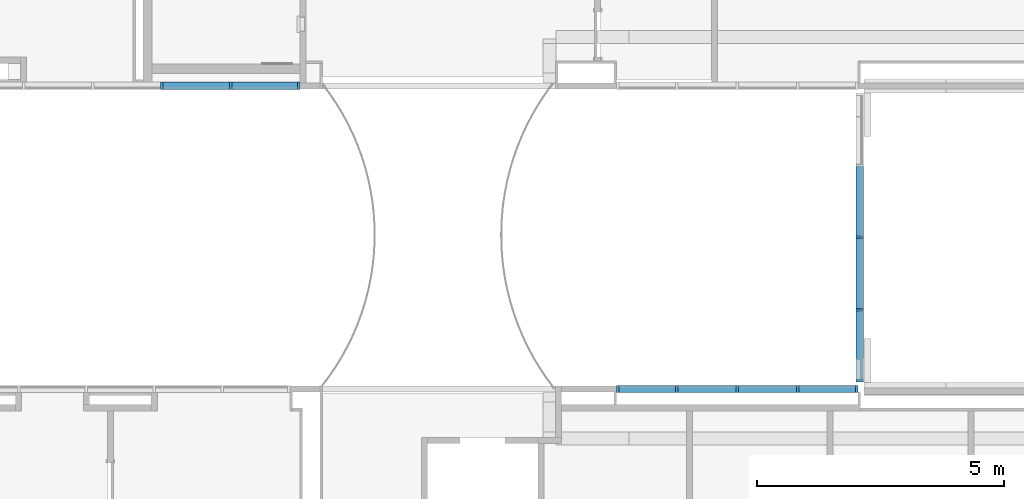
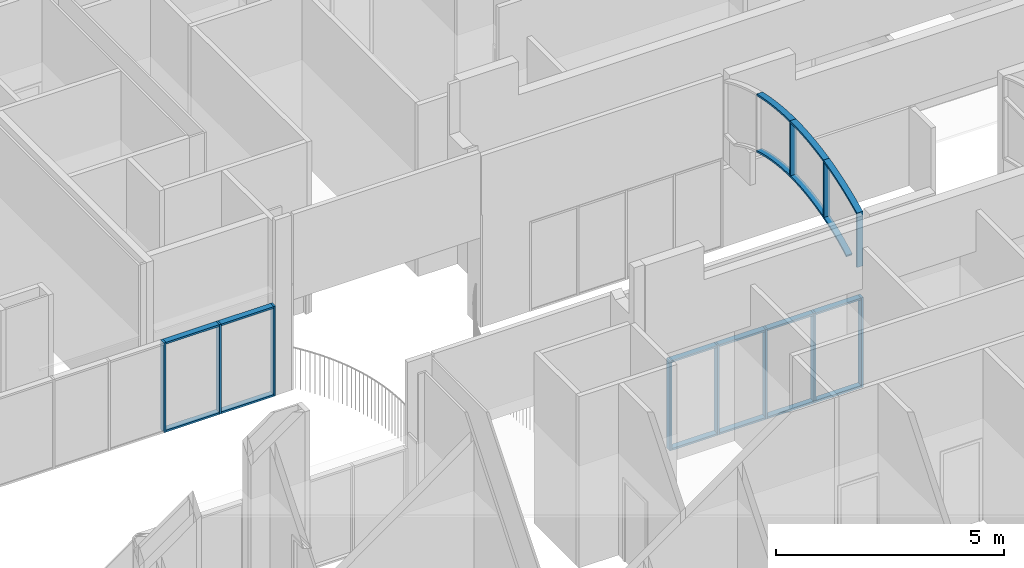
# One storey, part 2 of 47: 29 members, 3 elements without a shape of their own.
"""IFC2X3 building model written with IfcOpenShell, lengths in metres."""

from ifc_helpers import new_model, entity, si_unit, converted_unit, frame, frame_2d, origin, origin_2d_with_axis, place, context, project, spatial, polyline, circle_curve, parameter, trimmed, segment, composite_curve, rectangle, outline, extrude, source, transform, mapped, material, type_object, type_shapes, element, aggregate, save


model = new_model("IFC2X3")

# Units and contexts
model_context = context("Model", 3, precision=1e-09, world=origin())
plan_context = context("Plan", 3, precision=1e-09, world=origin())
ifc_project = project(units=[si_unit("LENGTHUNIT", "METRE"), si_unit("AREAUNIT", "SQUARE_METRE"), si_unit("VOLUMEUNIT", "CUBIC_METRE"), converted_unit("PLANEANGLEUNIT", "DEGREE", entity("IfcRatioMeasure", 0.01745329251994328), si_unit("PLANEANGLEUNIT", "RADIAN"), dimensions=[0, 0, 0, 0, 0, 0, 0]), si_unit("TIMEUNIT", "SECOND")], contexts=[model_context, plan_context])

# Site, building, storey
site_placement = place(None, origin())
site = spatial("IfcSite", under=ifc_project, at=site_placement, Name="Default", CompositionType="ELEMENT")
building_placement = place(site_placement, origin())
building = spatial("IfcBuilding", under=site, at=building_placement, CompositionType="ELEMENT")
storey_placement = place(building_placement, frame((0.0, 0.0, 4.570000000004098)))
storey = spatial("IfcBuildingStorey", under=building, at=storey_placement, Name="Second Floor", CompositionType="ELEMENT", Elevation=4.570000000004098)

# Curtain wall, members
curtain_wall_1_placement = place(storey_placement, origin())
curtain_wall_1 = element("IfcCurtainWall", 1, at=curtain_wall_1_placement, inside=storey, Name="Curtain Wall:Storefront", ObjectType="Curtain Wall:Storefront")
ifc_material = material(Name="Metal - Aluminium")
member_type_1 = type_object("IfcMemberType", Name="50 x 150mm", PredefinedType="MULLION")
shared_shape_1 = source(origin(), model_context, "Body", "SweptSolid", [
    extrude(rectangle(XDim=0.05, YDim=0.15, at=origin_2d_with_axis()), frame((-0.025, 0.0, -2.399999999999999), z_axis=(0.0, 0.0, 1.0), x_axis=(-1.0, 0.0, 0.0)), (0.0, 0.0, 1.0), 2.399999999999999),
])
type_shapes(member_type_1, [shared_shape_1])
member_1_placement = place(storey_placement, frame((-20.29000000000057, 34.77180159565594, 2.399999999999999)))
member_1 = element("IfcMember", 2, at=member_1_placement, type_object=member_type_1, material=ifc_material, Name="Rectangular Mullion:50 x 150mm:50 x 150mm", ObjectType="50 x 150mm", context=model_context, shape_type="MappedRepresentation", body=[
    mapped(shared_shape_1, transform((0.0, 0.0, 0.0), scale=1.0)),
])
member_type_2 = type_object("IfcMemberType", Name="50 x 150mm", PredefinedType="MULLION")
shared_shape_2 = source(origin(), model_context, "Body", "SweptSolid", [
    extrude(rectangle(XDim=0.05, YDim=0.15, at=origin_2d_with_axis()), frame((0.0, 0.0, -2.399999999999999), z_axis=(0.0, 0.0, 1.0), x_axis=(-1.0, 0.0, 0.0)), (0.0, 0.0, 1.0), 2.399999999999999),
])
type_shapes(member_type_2, [shared_shape_2])
member_2_placement = place(storey_placement, frame((-21.68987500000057, 34.77180159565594, 0.0), z_axis=(0.0, 0.0, -1.0), x_axis=(-1.0, 0.0, 0.0)))
member_2 = element("IfcMember", 3, at=member_2_placement, type_object=member_type_2, material=ifc_material, Name="Rectangular Mullion:50 x 150mm:50 x 150mm", ObjectType="50 x 150mm", context=model_context, shape_type="MappedRepresentation", body=[
    mapped(shared_shape_2, transform((0.0, 0.0, 0.0), scale=1.0)),
])
member_3_placement = place(storey_placement, frame((-23.08975000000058, 34.77180159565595, 0.0), z_axis=(0.0, 0.0, -1.0), x_axis=(-1.0, 0.0, 0.0)))
member_3 = element("IfcMember", 4, at=member_3_placement, type_object=member_type_2, material=ifc_material, Name="Rectangular Mullion:50 x 150mm:50 x 150mm", ObjectType="50 x 150mm", context=model_context, shape_type="MappedRepresentation", body=[
    mapped(shared_shape_2, transform((0.0, 0.0, 0.0), scale=1.0)),
])
member_type_3 = type_object("IfcMemberType", Name="50 x 150mm", PredefinedType="MULLION")
shared_shape_3 = source(origin(), model_context, "Body", "SweptSolid", [
    extrude(rectangle(XDim=0.05, YDim=0.15, at=origin_2d_with_axis()), frame((-0.025, 0.0, -1.324875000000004), z_axis=(0.0, 0.0, 1.0), x_axis=(-1.0, 0.0, 0.0)), (0.0, 0.0, 1.0), 1.324875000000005),
])
type_shapes(member_type_3, [shared_shape_3])
member_4_placement = place(storey_placement, frame((-21.66487500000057, 34.77180159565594, 2.399999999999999), z_axis=(-1.0, 0.0, 0.0), x_axis=(0.0, 0.0, 1.0)))
member_4 = element("IfcMember", 5, at=member_4_placement, type_object=member_type_3, material=ifc_material, Name="Rectangular Mullion:50 x 150mm:50 x 150mm", ObjectType="50 x 150mm", context=model_context, shape_type="MappedRepresentation", body=[
    mapped(shared_shape_3, transform((0.0, 0.0, 0.0), scale=1.0)),
])
member_type_4 = type_object("IfcMemberType", Name="50 x 150mm", PredefinedType="MULLION")
shared_shape_4 = source(origin(), model_context, "Body", "SweptSolid", [
    extrude(rectangle(XDim=0.05, YDim=0.15, at=origin_2d_with_axis()), frame((-0.025, 0.0, -1.324875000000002), z_axis=(0.0, 0.0, 1.0), x_axis=(-1.0, 0.0, 0.0)), (0.0, 0.0, 1.0), 1.324875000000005),
])
type_shapes(member_type_4, [shared_shape_4])
member_5_placement = place(storey_placement, frame((-20.34000000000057, 34.77180159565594, 0.0), z_axis=(1.0, 0.0, 0.0), x_axis=(0.0, 0.0, -1.0)))
member_5 = element("IfcMember", 6, at=member_5_placement, type_object=member_type_4, material=ifc_material, Name="Rectangular Mullion:50 x 150mm:50 x 150mm", ObjectType="50 x 150mm", context=model_context, shape_type="MappedRepresentation", body=[
    mapped(shared_shape_4, transform((0.0, 0.0, 0.0), scale=1.0)),
])
member_type_5 = type_object("IfcMemberType", Name="50 x 150mm", PredefinedType="MULLION")
shared_shape_5 = source(origin(), model_context, "Body", "SweptSolid", [
    extrude(rectangle(XDim=0.05, YDim=0.15, at=origin_2d_with_axis()), frame((-0.025, 0.0, -1.349875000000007), z_axis=(0.0, 0.0, 1.0), x_axis=(-1.0, 0.0, 0.0)), (0.0, 0.0, 1.0), 1.349875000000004),
])
type_shapes(member_type_5, [shared_shape_5])
member_6_placement = place(storey_placement, frame((-23.06475000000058, 34.77180159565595, 2.399999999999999), z_axis=(-1.0, 0.0, 0.0), x_axis=(0.0, 0.0, 1.0)))
member_6 = element("IfcMember", 7, at=member_6_placement, type_object=member_type_5, material=ifc_material, Name="Rectangular Mullion:50 x 150mm:50 x 150mm", ObjectType="50 x 150mm", context=model_context, shape_type="MappedRepresentation", body=[
    mapped(shared_shape_5, transform((0.0, 0.0, 0.0), scale=1.0)),
])
member_type_6 = type_object("IfcMemberType", Name="50 x 150mm", PredefinedType="MULLION")
shared_shape_6 = source(origin(), model_context, "Body", "SweptSolid", [
    extrude(rectangle(XDim=0.05, YDim=0.15, at=origin_2d_with_axis()), frame((-0.025, 0.0, -1.349875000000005), z_axis=(0.0, 0.0, 1.0), x_axis=(-1.0, 0.0, 0.0)), (0.0, 0.0, 1.0), 1.349875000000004),
])
type_shapes(member_type_6, [shared_shape_6])
member_7_placement = place(storey_placement, frame((-21.71487500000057, 34.77180159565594, 0.0), z_axis=(1.0, 0.0, 0.0), x_axis=(0.0, 0.0, -1.0)))
member_7 = element("IfcMember", 8, at=member_7_placement, type_object=member_type_6, material=ifc_material, Name="Rectangular Mullion:50 x 150mm:50 x 150mm", ObjectType="50 x 150mm", context=model_context, shape_type="MappedRepresentation", body=[
    mapped(shared_shape_6, transform((0.0, 0.0, 0.0), scale=1.0)),
])
aggregate(curtain_wall_1, [member_5, member_1, member_4, member_6, member_7, member_2, member_3])

curtain_wall_2_placement = place(storey_placement, origin())
curtain_wall_2 = element("IfcCurtainWall", 9, at=curtain_wall_2_placement, inside=storey, Name="Curtain Wall:Storefront", ObjectType="Curtain Wall:Storefront")
member_type_7 = type_object("IfcMemberType", Name="50 x 150mm", PredefinedType="MULLION")
shared_shape_7 = source(origin(), model_context, "Body", "SweptSolid", [
    extrude(outline(polyline([(-0.721887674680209, -0.025), (0.7372659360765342, -0.025), (0.7065094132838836, 0.025), (-0.721887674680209, 0.025), (-0.721887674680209, -0.025)])), frame((-0.025, -0.07499999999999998, -0.721887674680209), z_axis=(0.0, 1.0, 0.0), x_axis=(0.0, 0.0, -1.0)), (0.0, 0.0, 1.0), 0.15),
])
type_shapes(member_type_7, [shared_shape_7])
member_8_placement = place(storey_placement, frame((-8.945999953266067, 28.76999999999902, 3.069999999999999), z_axis=(0.0, 0.0, -1.0), x_axis=(0.0, -1.0, 0.0)))
member_8 = element("IfcMember", 10, at=member_8_placement, type_object=member_type_7, material=ifc_material, Name="Rectangular Mullion:50 x 150mm:50 x 150mm", ObjectType="50 x 150mm", context=model_context, shape_type="MappedRepresentation", body=[
    mapped(shared_shape_7, transform((0.0, 0.0, 0.0), scale=1.0)),
])
member_type_8 = type_object("IfcMemberType", Name="50 x 150mm", PredefinedType="MULLION")
shared_shape_8 = source(origin(), model_context, "Body", "SweptSolid", [
    extrude(outline(composite_curve([segment(polyline([(-0.6042689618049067, -0.02322478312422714), (0.8057359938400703, -0.02322478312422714)]), True, "CONTINUOUS"), segment(trimmed(circle_curve(frame_2d((-5.619246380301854, -0.008175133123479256), x_axis=(0.9744238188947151, -0.2247180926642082)), 6.424999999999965), [parameter(12.85209420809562)], [parameter(13.07434994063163)], True, "PARAMETER"), True, "CONTINUOUS"), segment(trimmed(circle_curve(frame_2d((-5.619246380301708, -0.0081751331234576), x_axis=(0.9999988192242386, 0.001536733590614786)), 6.424999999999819), [parameter(0.0)], [parameter(0.2236274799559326)], True, "PARAMETER"), True, "CONTINUOUS"), segment(polyline([(0.8056585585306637, 0.02677521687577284), (-0.6043681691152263, 0.02677521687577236)]), True, "CONTINUOUS"), segment(trimmed(circle_curve(frame_2d((-5.619246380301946, -0.008175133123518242), x_axis=(0.9548558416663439, 0.2970695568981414)), 5.015000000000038), [parameter(342.8331478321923)], [parameter(343.1176281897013)], True, "PARAMETER"), False, "CONTINUOUS"), segment(polyline([(-0.6042564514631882, 0.001875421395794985), (-0.604247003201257, -0.01067466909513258)]), True, "CONTINUOUS"), segment(polyline([(-0.604247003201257, -0.01067466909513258), (-0.6042689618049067, -0.02322478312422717)]), True, "CONTINUOUS")], self_intersect=False)), frame((0.001775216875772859, -0.07500000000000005, -0.6542563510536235), z_axis=(0.0, 1.0, 0.0), x_axis=(0.0, 0.0, -1.0)), (0.0, 0.0, 1.0), 0.15),
])
type_shapes(member_type_8, [shared_shape_8])
member_9_placement = place(storey_placement, frame((-8.945999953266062, 31.699999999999, 3.714962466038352), z_axis=(0.0, 0.0, -1.0), x_axis=(0.0, -1.0, 0.0)))
member_9 = element("IfcMember", 11, at=member_9_placement, type_object=member_type_8, material=ifc_material, Name="Rectangular Mullion:50 x 150mm:50 x 150mm", ObjectType="50 x 150mm", context=model_context, shape_type="MappedRepresentation", body=[
    mapped(shared_shape_8, transform((0.0, 0.0, 0.0), scale=1.0)),
])
member_type_9 = type_object("IfcMemberType", Name="50 x 150mm", PredefinedType="MULLION")
shared_shape_9 = source(origin(), model_context, "Body", "SweptSolid", [
    extrude(outline(composite_curve([segment(polyline([(-0.736550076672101, -0.02435906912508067), (0.7240299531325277, -0.02435906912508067)]), True, "CONTINUOUS"), segment(trimmed(circle_curve(frame_2d((-5.528175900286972, 1.455690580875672), x_axis=(0.8925376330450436, -0.4509729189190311)), 6.425000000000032), [parameter(13.48797753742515)], [parameter(13.81982101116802)], True, "PARAMETER"), True, "CONTINUOUS"), segment(polyline([(0.732497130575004, 0.01187681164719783), (0.7340800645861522, 0.01875800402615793)]), True, "CONTINUOUS"), segment(polyline([(0.7340800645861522, 0.01875800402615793), (0.7356554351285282, 0.02564093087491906)]), True, "CONTINUOUS"), segment(polyline([(0.7356554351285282, 0.02564093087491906), (-0.7213908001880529, 0.02564093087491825)]), True, "CONTINUOUS"), segment(trimmed(circle_curve(frame_2d((-5.528175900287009, 1.455690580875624), x_axis=(0.9999979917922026, 0.00200409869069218)), 5.015000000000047), [parameter(342.8438491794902)], [parameter(343.3170915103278)], True, "PARAMETER"), False, "CONTINUOUS"), segment(polyline([(-0.7333663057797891, -0.01401209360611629), (-0.7349554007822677, -0.01918644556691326)]), True, "CONTINUOUS"), segment(polyline([(-0.7349554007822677, -0.01918644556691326), (-0.736550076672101, -0.02435906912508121)]), True, "CONTINUOUS")], self_intersect=False)), frame((0.0006409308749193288, -0.07499999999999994, -0.7811710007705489), z_axis=(0.0, 1.0, 0.0), x_axis=(0.0, 0.0, -1.0)), (0.0, 0.0, 1.0), 0.15),
])
type_shapes(member_type_9, [shared_shape_9])
member_10_placement = place(storey_placement, frame((-8.945999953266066, 30.23499999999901, 3.496977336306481), z_axis=(0.0, 0.0, -1.0), x_axis=(0.0, -1.0, 0.0)))
member_10 = element("IfcMember", 12, at=member_10_placement, type_object=member_type_9, material=ifc_material, Name="Rectangular Mullion:50 x 150mm:50 x 150mm", ObjectType="50 x 150mm", context=model_context, shape_type="MappedRepresentation", body=[
    mapped(shared_shape_9, transform((0.0, 0.0, 0.0), scale=1.0)),
])
member_type_10 = type_object("IfcMemberType", Name="50 x 150mm", PredefinedType="MULLION")
shared_shape_10 = source(origin(), model_context, "Body", "SweptSolid", [
    extrude(outline(composite_curve([segment(polyline([(-0.1165367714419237, -0.7628718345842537), (-0.06653677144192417, -0.7628718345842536)]), True, "CONTINUOUS"), segment(trimmed(circle_curve(frame_2d((6.358463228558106, -0.7628718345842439), x_axis=(-0.9710517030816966, 0.2388693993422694)), 6.425000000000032), [parameter(0.2746813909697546)], [parameter(13.81982101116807)], True, "PARAMETER"), False, "CONTINUOUS"), segment(polyline([(0.1121700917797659, 0.7419361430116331), (0.07090345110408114, 0.7838075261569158)]), True, "CONTINUOUS"), segment(trimmed(circle_curve(frame_2d((6.358463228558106, -0.7628718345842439), x_axis=(-0.9710517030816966, 0.2388693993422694)), 6.475000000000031), [parameter(3.562221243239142e-13)], [parameter(13.81982101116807)], True, "PARAMETER"), True, "CONTINUOUS")], self_intersect=False)), frame((-0.1183767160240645, -0.07499999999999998, -0.77805429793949), z_axis=(0.0, 1.0, 0.0), x_axis=(-0.9710517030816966, 0.0, 0.238869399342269)), (0.0, 0.0, 1.0), 0.15),
])
type_shapes(member_type_10, [shared_shape_10])
member_11_placement = place(storey_placement, frame((-8.945999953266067, 28.76999999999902, 4.529153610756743), z_axis=(0.0, -0.8925376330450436, -0.4509729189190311), x_axis=(0.0, -0.4509729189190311, 0.8925376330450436)))
member_11 = element("IfcMember", 13, at=member_11_placement, type_object=member_type_10, material=ifc_material, Name="Rectangular Mullion:50 x 150mm:50 x 150mm", ObjectType="50 x 150mm", context=model_context, shape_type="MappedRepresentation", body=[
    mapped(shared_shape_10, transform((0.0, 0.0, 0.0), scale=1.0)),
])
member_type_11 = type_object("IfcMemberType", Name="50 x 150mm", PredefinedType="MULLION")
shared_shape_11 = source(origin(), model_context, "Body", "SweptSolid", [
    extrude(outline(composite_curve([segment(polyline([(-0.1086602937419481, -0.7298012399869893), (-0.05866029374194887, -0.7298012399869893)]), True, "CONTINUOUS"), segment(trimmed(circle_curve(frame_2d((6.366339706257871, -0.7298012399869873), x_axis=(-0.9740588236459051, 0.226294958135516)), 6.42499999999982), [parameter(3.562221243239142e-13)], [parameter(13.07903804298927)], True, "PARAMETER"), False, "CONTINUOUS"), segment(polyline([(0.1080117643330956, 0.7241438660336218), (0.05930882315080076, 0.7354586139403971)]), True, "CONTINUOUS"), segment(trimmed(circle_curve(frame_2d((6.366339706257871, -0.7298012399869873), x_axis=(-0.9740588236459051, 0.226294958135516)), 6.474999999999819), [parameter(3.562221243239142e-13)], [parameter(13.07903804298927)], True, "PARAMETER"), True, "CONTINUOUS")], self_intersect=False)), frame((-0.1086602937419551, -0.07499999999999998, -0.7298012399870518), z_axis=(0.0, 1.0, 0.0), x_axis=(-0.9740588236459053, 0.0, 0.2262949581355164)), (0.0, 0.0, 1.0), 0.1499999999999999),
])
type_shapes(member_type_11, [shared_shape_11])
placement = place(building_placement, frame((0.0, 0.0, 9.25000000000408)))
member_12_placement = place(placement, frame((-8.945999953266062, 31.699999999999, 0.5449647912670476), z_axis=(0.0, -0.9999988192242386, 0.001536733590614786), x_axis=(0.0, 0.001536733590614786, 0.9999988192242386)))
member_12 = element("IfcMember", 14, at=member_12_placement, type_object=member_type_11, material=ifc_material, Name="Rectangular Mullion:50 x 150mm:50 x 150mm", ObjectType="50 x 150mm", context=model_context, shape_type="MappedRepresentation", body=[
    mapped(shared_shape_11, transform((0.0, 0.0, 0.0), scale=1.0)),
])
member_type_12 = type_object("IfcMemberType", Name="50 x 150mm", PredefinedType="MULLION")
shared_shape_12 = source(origin(), model_context, "Body", "SweptSolid", [
    extrude(outline(composite_curve([segment(polyline([(-0.1086005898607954, -0.7295442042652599), (-0.05860058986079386, -0.7295442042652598)]), True, "CONTINUOUS"), segment(trimmed(circle_curve(frame_2d((6.366399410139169, -0.7295442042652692), x_axis=(-0.9740773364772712, 0.2262152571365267)), 6.424999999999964), [parameter(3.562221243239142e-13)], [parameter(13.07434994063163)], True, "PARAMETER"), False, "CONTINUOUS"), segment(polyline([(0.1079525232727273, 0.7238888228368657), (0.05924865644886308, 0.7351995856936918)]), True, "CONTINUOUS"), segment(trimmed(circle_curve(frame_2d((6.366399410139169, -0.7295442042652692), x_axis=(-0.9740773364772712, 0.2262152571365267)), 6.474999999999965), [parameter(3.562221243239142e-13)], [parameter(13.07434994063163)], True, "PARAMETER"), True, "CONTINUOUS")], self_intersect=False)), frame((-0.1086005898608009, -0.07499999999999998, -0.729544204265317), z_axis=(0.0, 1.0, 0.0), x_axis=(-0.9740773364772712, 0.0, 0.2262152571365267)), (0.0, 0.0, 1.0), 0.15),
])
type_shapes(member_type_12, [shared_shape_12])
member_13_placement = place(placement, frame((-8.945999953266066, 30.23499999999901, 0.3793666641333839), z_axis=(0.0, -0.9744238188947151, -0.2247180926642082), x_axis=(0.0, -0.2247180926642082, 0.9744238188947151)))
member_13 = element("IfcMember", 15, at=member_13_placement, type_object=member_type_12, material=ifc_material, Name="Rectangular Mullion:50 x 150mm:50 x 150mm", ObjectType="50 x 150mm", context=model_context, shape_type="MappedRepresentation", body=[
    mapped(shared_shape_12, transform((0.0, 0.0, 0.0), scale=1.0)),
])
member_type_13 = type_object("IfcMemberType", Name="50 x 150mm", PredefinedType="MULLION")
shared_shape_13 = source(origin(), model_context, "Body", "SweptSolid", [
    extrude(outline(composite_curve([segment(polyline([(0.08615404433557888, -0.7364125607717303), (0.1361540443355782, -0.7364125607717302)]), True, "CONTINUOUS"), segment(trimmed(circle_curve(frame_2d((-4.878845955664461, -0.736412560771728), x_axis=(0.9554492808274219, 0.2951553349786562)), 5.015000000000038), [parameter(342.8331478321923)], [parameter(359.9999999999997)], True, "PARAMETER"), True, "CONTINUOUS"), segment(polyline([(-0.0872678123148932, 0.7437914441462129), (-0.1350402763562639, 0.7290336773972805)]), True, "CONTINUOUS"), segment(trimmed(circle_curve(frame_2d((-4.878845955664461, -0.736412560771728), x_axis=(0.9554492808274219, 0.2951553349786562)), 4.965000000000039), [parameter(342.8331478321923)], [parameter(359.9999999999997)], True, "PARAMETER"), False, "CONTINUOUS")], self_intersect=False)), frame((0.08615404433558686, -0.07499999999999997, -0.7364125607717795), z_axis=(0.0, 1.0, 0.0), x_axis=(-0.9554492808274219, 0.0, -0.2951553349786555)), (0.0, 0.0, 1.0), 0.15),
])
type_shapes(member_type_13, [shared_shape_13])
member_14_placement = place(storey_placement, frame((-8.94599995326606, 33.16499999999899, 3.490831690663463), z_axis=(0.0, 0.9548558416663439, -0.2970695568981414), x_axis=(0.0, -0.2970695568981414, -0.9548558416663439)))
member_14 = element("IfcMember", 16, at=member_14_placement, type_object=member_type_13, material=ifc_material, Name="Rectangular Mullion:50 x 150mm:50 x 150mm", ObjectType="50 x 150mm", context=model_context, shape_type="MappedRepresentation", body=[
    mapped(shared_shape_13, transform((0.0, 0.0, 0.0), scale=1.0)),
])
member_type_14 = type_object("IfcMemberType", Name="50 x 150mm", PredefinedType="MULLION")
shared_shape_14 = source(origin(), model_context, "Body", "SweptSolid", [
    extrude(outline(composite_curve([segment(polyline([(0.08601654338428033, -0.7359673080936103), (0.1360165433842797, -0.7359673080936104)]), True, "CONTINUOUS"), segment(trimmed(circle_curve(frame_2d((-4.878983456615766, -0.7359673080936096), x_axis=(0.955504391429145, 0.2949768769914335)), 5.015000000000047), [parameter(342.8438491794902)], [parameter(359.9999999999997)], True, "PARAMETER"), True, "CONTINUOUS"), segment(polyline([(-0.08712893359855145, 0.7433417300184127), (-0.1349041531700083, 0.7285928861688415)]), True, "CONTINUOUS"), segment(trimmed(circle_curve(frame_2d((-4.878983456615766, -0.7359673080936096), x_axis=(0.955504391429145, 0.2949768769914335)), 4.965000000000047), [parameter(342.8438491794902)], [parameter(359.9999999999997)], True, "PARAMETER"), False, "CONTINUOUS")], self_intersect=False)), frame((0.08601654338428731, -0.07499999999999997, -0.735967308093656), z_axis=(0.0, 1.0, 0.0), x_axis=(-0.9555043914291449, 0.0, -0.2949768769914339)), (0.0, 0.0, 1.0), 0.1499999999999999),
])
type_shapes(member_type_14, [shared_shape_14])
member_15_placement = place(storey_placement, frame((-8.945999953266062, 31.699999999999, 3.714962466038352), z_axis=(0.0, 0.9999979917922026, -0.00200409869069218), x_axis=(0.0, -0.00200409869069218, -0.9999979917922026)))
member_15 = element("IfcMember", 17, at=member_15_placement, type_object=member_type_14, material=ifc_material, Name="Rectangular Mullion:50 x 150mm:50 x 150mm", ObjectType="50 x 150mm", context=model_context, shape_type="MappedRepresentation", body=[
    mapped(shared_shape_14, transform((0.0, 0.0, 0.0), scale=1.0)),
])
member_type_15 = type_object("IfcMemberType", Name="50 x 150mm", PredefinedType="MULLION")
shared_shape_15 = source(origin(), model_context, "Body", "SweptSolid", [
    extrude(outline(composite_curve([segment(polyline([(-0.1054287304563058, -0.5335868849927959), (-0.05373918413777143, -0.5335868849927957)]), True, "CONTINUOUS"), segment(trimmed(circle_curve(frame_2d((-4.906478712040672, 0.7317763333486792), x_axis=(0.9992109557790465, -0.03971732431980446)), 5.015000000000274), [parameter(347.6616481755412)], [parameter(359.9999999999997)], True, "PARAMETER"), True, "CONTINUOUS"), segment(polyline([(0.1045642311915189, 0.5325939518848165), (0.05460368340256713, 0.534579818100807)]), True, "CONTINUOUS"), segment(trimmed(circle_curve(frame_2d((-4.906478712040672, 0.7317763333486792), x_axis=(0.9992109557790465, -0.03971732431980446)), 4.965000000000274), [parameter(347.511143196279)], [parameter(359.9999999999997)], True, "PARAMETER"), False, "CONTINUOUS")], self_intersect=False)), frame((0.03332851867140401, -0.07499999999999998, -0.5363267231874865), z_axis=(0.0, 1.0, 0.0), x_axis=(-0.9992109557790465, 0.0, 0.03971732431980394)), (0.0, 0.0, 1.0), 0.1499999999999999),
])
type_shapes(member_type_15, [shared_shape_15])
member_16_placement = place(storey_placement, frame((-8.945999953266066, 30.23499999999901, 3.496977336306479), z_axis=(0.0, 0.9560936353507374, 0.2930613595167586), x_axis=(0.0, 0.2930613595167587, -0.9560936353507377)))
member_16 = element("IfcMember", 18, at=member_16_placement, type_object=member_type_15, material=ifc_material, Name="Rectangular Mullion:50 x 150mm:50 x 150mm", ObjectType="50 x 150mm", context=model_context, shape_type="MappedRepresentation", body=[
    mapped(shared_shape_15, transform((0.0, 0.0, 0.0), scale=1.0)),
])
aggregate(curtain_wall_2, [member_8, member_9, member_10, member_11, member_12, member_13, member_14, member_15, member_16])

curtain_wall_3_placement = place(storey_placement, origin())
curtain_wall_3 = element("IfcCurtainWall", 19, at=curtain_wall_3_placement, inside=storey, Name="Curtain Wall:Storefront", ObjectType="Curtain Wall:Storefront")
member_type_16 = type_object("IfcMemberType", Name="50 x 150mm", PredefinedType="MULLION")
shared_shape_16 = source(origin(), model_context, "Body", "SweptSolid", [
    extrude(rectangle(XDim=0.05, YDim=0.15, at=origin_2d_with_axis()), frame((-0.025, 0.0, -2.399999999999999), z_axis=(0.0, 0.0, 1.0), x_axis=(-1.0, 0.0, 0.0)), (0.0, 0.0, 1.0), 2.399999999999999),
])
type_shapes(member_type_16, [shared_shape_16])
member_17_placement = place(storey_placement, frame((-13.8725000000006, 28.62819840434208, 0.0), z_axis=(0.0, 0.0, -1.0), x_axis=(-1.0, 0.0, 0.0)))
member_17 = element("IfcMember", 20, at=member_17_placement, type_object=member_type_16, material=ifc_material, Name="Rectangular Mullion:50 x 150mm:50 x 150mm", ObjectType="50 x 150mm", context=model_context, shape_type="MappedRepresentation", body=[
    mapped(shared_shape_16, transform((0.0, 0.0, 0.0), scale=1.0)),
])
member_type_17 = type_object("IfcMemberType", Name="50 x 150mm", PredefinedType="MULLION")
shared_shape_17 = source(origin(), model_context, "Body", "SweptSolid", [
    extrude(rectangle(XDim=0.05, YDim=0.15, at=origin_2d_with_axis()), frame((-0.025, 0.0, -2.399999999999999), z_axis=(0.0, 0.0, 1.0), x_axis=(-1.0, 0.0, 0.0)), (0.0, 0.0, 1.0), 2.399999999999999),
])
type_shapes(member_type_17, [shared_shape_17])
member_18_placement = place(storey_placement, frame((-8.981726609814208, 28.6281984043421, 2.399999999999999)))
member_18 = element("IfcMember", 21, at=member_18_placement, type_object=member_type_17, material=ifc_material, Name="Rectangular Mullion:50 x 150mm:50 x 150mm", ObjectType="50 x 150mm", context=model_context, shape_type="MappedRepresentation", body=[
    mapped(shared_shape_17, transform((0.0, 0.0, 0.0), scale=1.0)),
])
member_type_18 = type_object("IfcMemberType", Name="50 x 150mm", PredefinedType="MULLION")
shared_shape_18 = source(origin(), model_context, "Body", "SweptSolid", [
    extrude(rectangle(XDim=0.05, YDim=0.15, at=origin_2d_with_axis()), frame((0.0, 0.0, -2.399999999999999), z_axis=(0.0, 0.0, 1.0), x_axis=(-1.0, 0.0, 0.0)), (0.0, 0.0, 1.0), 2.399999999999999),
])
type_shapes(member_type_18, [shared_shape_18])
member_19_placement = place(storey_placement, frame((-10.20441995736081, 28.6281984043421, 0.0), z_axis=(0.0, 0.0, -1.0), x_axis=(-1.0, 0.0, 0.0)))
member_19 = element("IfcMember", 22, at=member_19_placement, type_object=member_type_18, material=ifc_material, Name="Rectangular Mullion:50 x 150mm:50 x 150mm", ObjectType="50 x 150mm", context=model_context, shape_type="MappedRepresentation", body=[
    mapped(shared_shape_18, transform((0.0, 0.0, 0.0), scale=1.0)),
])
member_20_placement = place(storey_placement, frame((-11.4271133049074, 28.62819840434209, 0.0), z_axis=(0.0, 0.0, -1.0), x_axis=(-1.0, 0.0, 0.0)))
member_20 = element("IfcMember", 23, at=member_20_placement, type_object=member_type_18, material=ifc_material, Name="Rectangular Mullion:50 x 150mm:50 x 150mm", ObjectType="50 x 150mm", context=model_context, shape_type="MappedRepresentation", body=[
    mapped(shared_shape_18, transform((0.0, 0.0, 0.0), scale=1.0)),
])
member_21_placement = place(storey_placement, frame((-12.649806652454, 28.62819840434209, 0.0), z_axis=(0.0, 0.0, -1.0), x_axis=(-1.0, 0.0, 0.0)))
member_21 = element("IfcMember", 24, at=member_21_placement, type_object=member_type_18, material=ifc_material, Name="Rectangular Mullion:50 x 150mm:50 x 150mm", ObjectType="50 x 150mm", context=model_context, shape_type="MappedRepresentation", body=[
    mapped(shared_shape_18, transform((0.0, 0.0, 0.0), scale=1.0)),
])
member_type_19 = type_object("IfcMemberType", Name="50 x 150mm", PredefinedType="MULLION")
shared_shape_19 = source(origin(), model_context, "Body", "SweptSolid", [
    extrude(rectangle(XDim=0.05, YDim=0.15, at=origin_2d_with_axis()), frame((-0.025, 0.0, -1.147693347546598), z_axis=(0.0, 0.0, 1.0), x_axis=(-1.0, 0.0, 0.0)), (0.0, 0.0, 1.0), 1.147693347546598),
])
type_shapes(member_type_19, [shared_shape_19])
member_22_placement = place(storey_placement, frame((-13.8225000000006, 28.62819840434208, 2.399999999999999), z_axis=(-1.0, 0.0, 0.0), x_axis=(0.0, 0.0, 1.0)))
member_22 = element("IfcMember", 25, at=member_22_placement, type_object=member_type_19, material=ifc_material, Name="Rectangular Mullion:50 x 150mm:50 x 150mm", ObjectType="50 x 150mm", context=model_context, shape_type="MappedRepresentation", body=[
    mapped(shared_shape_19, transform((0.0, 0.0, 0.0), scale=1.0)),
])
member_23_placement = place(storey_placement, frame((-10.17941995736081, 28.6281984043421, 2.399999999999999), z_axis=(-1.0, 0.0, 0.0), x_axis=(0.0, 0.0, 1.0)))
member_23 = element("IfcMember", 26, at=member_23_placement, type_object=member_type_19, material=ifc_material, Name="Rectangular Mullion:50 x 150mm:50 x 150mm", ObjectType="50 x 150mm", context=model_context, shape_type="MappedRepresentation", body=[
    mapped(shared_shape_19, transform((0.0, 0.0, 0.0), scale=1.0)),
])
member_type_20 = type_object("IfcMemberType", Name="50 x 150mm", PredefinedType="MULLION")
shared_shape_20 = source(origin(), model_context, "Body", "SweptSolid", [
    extrude(rectangle(XDim=0.05, YDim=0.15, at=origin_2d_with_axis()), frame((-0.025, 0.0, -1.172693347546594), z_axis=(0.0, 0.0, 1.0), x_axis=(-1.0, 0.0, 0.0)), (0.0, 0.0, 1.0), 1.172693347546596),
])
type_shapes(member_type_20, [shared_shape_20])
member_24_placement = place(storey_placement, frame((-11.4021133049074, 28.62819840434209, 2.399999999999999), z_axis=(-1.0, 0.0, 0.0), x_axis=(0.0, 0.0, 1.0)))
member_24 = element("IfcMember", 27, at=member_24_placement, type_object=member_type_20, material=ifc_material, Name="Rectangular Mullion:50 x 150mm:50 x 150mm", ObjectType="50 x 150mm", context=model_context, shape_type="MappedRepresentation", body=[
    mapped(shared_shape_20, transform((0.0, 0.0, 0.0), scale=1.0)),
])
member_25_placement = place(storey_placement, frame((-12.624806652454, 28.62819840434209, 2.399999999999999), z_axis=(-1.0, 0.0, 0.0), x_axis=(0.0, 0.0, 1.0)))
member_25 = element("IfcMember", 28, at=member_25_placement, type_object=member_type_20, material=ifc_material, Name="Rectangular Mullion:50 x 150mm:50 x 150mm", ObjectType="50 x 150mm", context=model_context, shape_type="MappedRepresentation", body=[
    mapped(shared_shape_20, transform((0.0, 0.0, 0.0), scale=1.0)),
])
member_type_21 = type_object("IfcMemberType", Name="50 x 150mm", PredefinedType="MULLION")
shared_shape_21 = source(origin(), model_context, "Body", "SweptSolid", [
    extrude(rectangle(XDim=0.05, YDim=0.15, at=origin_2d_with_axis()), frame((-0.025, 0.0, -1.147693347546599), z_axis=(0.0, 0.0, 1.0), x_axis=(-1.0, 0.0, 0.0)), (0.0, 0.0, 1.0), 1.147693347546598),
])
type_shapes(member_type_21, [shared_shape_21])
member_26_placement = place(storey_placement, frame((-9.031726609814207, 28.6281984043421, 0.0), z_axis=(1.0, 0.0, 0.0), x_axis=(0.0, 0.0, -1.0)))
member_26 = element("IfcMember", 29, at=member_26_placement, type_object=member_type_21, material=ifc_material, Name="Rectangular Mullion:50 x 150mm:50 x 150mm", ObjectType="50 x 150mm", context=model_context, shape_type="MappedRepresentation", body=[
    mapped(shared_shape_21, transform((0.0, 0.0, 0.0), scale=1.0)),
])
member_27_placement = place(storey_placement, frame((-12.674806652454, 28.62819840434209, 0.0), z_axis=(1.0, 0.0, 0.0), x_axis=(0.0, 0.0, -1.0)))
member_27 = element("IfcMember", 30, at=member_27_placement, type_object=member_type_21, material=ifc_material, Name="Rectangular Mullion:50 x 150mm:50 x 150mm", ObjectType="50 x 150mm", context=model_context, shape_type="MappedRepresentation", body=[
    mapped(shared_shape_21, transform((0.0, 0.0, 0.0), scale=1.0)),
])
member_type_22 = type_object("IfcMemberType", Name="50 x 150mm", PredefinedType="MULLION")
shared_shape_22 = source(origin(), model_context, "Body", "SweptSolid", [
    extrude(rectangle(XDim=0.05, YDim=0.15, at=origin_2d_with_axis()), frame((-0.025, 0.0, -1.172693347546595), z_axis=(0.0, 0.0, 1.0), x_axis=(-1.0, 0.0, 0.0)), (0.0, 0.0, 1.0), 1.172693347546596),
])
type_shapes(member_type_22, [shared_shape_22])
member_28_placement = place(storey_placement, frame((-10.22941995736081, 28.6281984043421, 0.0), z_axis=(1.0, 0.0, 0.0), x_axis=(0.0, 0.0, -1.0)))
member_28 = element("IfcMember", 31, at=member_28_placement, type_object=member_type_22, material=ifc_material, Name="Rectangular Mullion:50 x 150mm:50 x 150mm", ObjectType="50 x 150mm", context=model_context, shape_type="MappedRepresentation", body=[
    mapped(shared_shape_22, transform((0.0, 0.0, 0.0), scale=1.0)),
])
member_29_placement = place(storey_placement, frame((-11.4521133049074, 28.62819840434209, 0.0), z_axis=(1.0, 0.0, 0.0), x_axis=(0.0, 0.0, -1.0)))
member_29 = element("IfcMember", 32, at=member_29_placement, type_object=member_type_22, material=ifc_material, Name="Rectangular Mullion:50 x 150mm:50 x 150mm", ObjectType="50 x 150mm", context=model_context, shape_type="MappedRepresentation", body=[
    mapped(shared_shape_22, transform((0.0, 0.0, 0.0), scale=1.0)),
])
aggregate(curtain_wall_3, [member_22, member_23, member_24, member_25, member_26, member_28, member_29, member_27, member_17, member_18, member_19, member_20, member_21])

save(model, "model.ifc")
